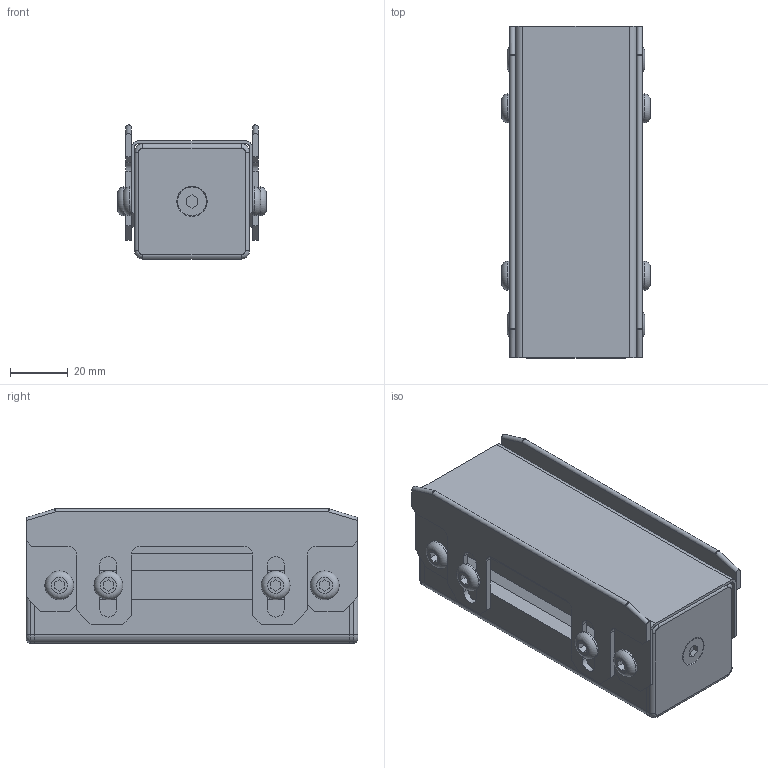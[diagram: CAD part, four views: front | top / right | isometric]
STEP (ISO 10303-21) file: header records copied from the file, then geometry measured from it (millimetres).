
FILE_DESCRIPTION(/* description */ (''),/* implementation_level */ '2;1');
FILE_NAME(/* name */ 'MGSS-FA-4040x115H.step',/* time_stamp */ '2022-12-15T12:50:17+09:00',/* author */ (''),/* organization */ (''),/* preprocessor_version */ 'ST-DEVELOPER v19.2',/* originating_system */ 'Autodesk Translation Framework v11.17.0.187',/* authorisation */ '');
FILE_SCHEMA (('AUTOMOTIVE_DESIGN { 1 0 10303 214 3 1 1 }'));
Length unit declared in the file: millimetre
Products named in the file (1): MGSS-FA-4040x115H
Bounding box: 51.6 x 115 x 46.5 mm (x, y, z)
Volume: 97823.2 mm3; surface area: 88060.1 mm2
Topology: 16 solids, 16 shells, 352 faces, 928 edges, 610 vertices
Faces by surface type: plane 236, cylinder 88, bspline 8, torus 8, sphere 8, cone 4
Full cylindrical faces by diameter (mm): 5 x2, 6 x4, 10 x8
Entity records: 10996 total; most frequent: CARTESIAN_POINT 1955, ORIENTED_EDGE 1856, DIRECTION 1844, EDGE_CURVE 928, LINE 702, VECTOR 702, VERTEX_POINT 610, AXIS2_PLACEMENT_3D 571
